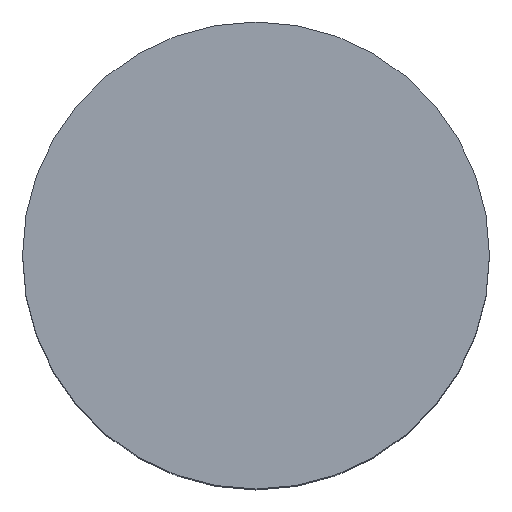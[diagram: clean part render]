
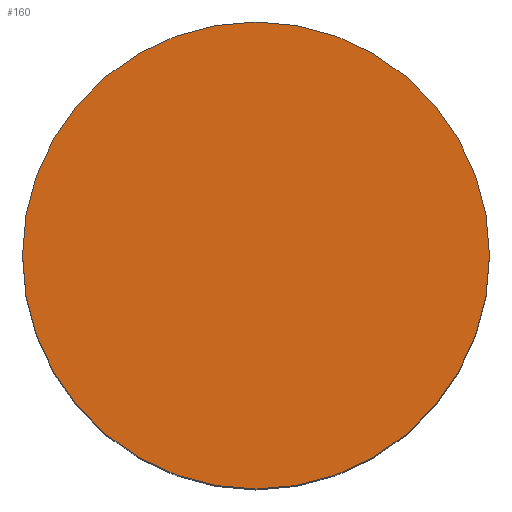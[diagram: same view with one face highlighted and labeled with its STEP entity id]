
A CAD part, top view. The second image highlights one B-rep face of the part: STEP entity #160.
In plain terms, the highlighted planar face has unit normal (0, 0, 1).
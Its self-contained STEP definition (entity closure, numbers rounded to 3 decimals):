
#24 = VERTEX_POINT('',#25);
#25 = CARTESIAN_POINT('',(386.,-38.5,12.));
#32 = CYLINDRICAL_SURFACE('',#33,10.);
#33 = AXIS2_PLACEMENT_3D('',#34,#35,#36);
#34 = CARTESIAN_POINT('',(376.,-38.5,0.));
#35 = DIRECTION('',(-0.,-0.,-1.));
#36 = DIRECTION('',(1.,0.,0.));
#51 = EDGE_CURVE('',#24,#24,#52,.T.);
#52 = SURFACE_CURVE('',#53,(#58,#65),.PCURVE_S1.);
#53 = CIRCLE('',#54,10.);
#54 = AXIS2_PLACEMENT_3D('',#55,#56,#57);
#55 = CARTESIAN_POINT('',(376.,-38.5,12.));
#56 = DIRECTION('',(0.,0.,1.));
#57 = DIRECTION('',(1.,0.,0.));
#58 = PCURVE('',#32,#59);
#59 = DEFINITIONAL_REPRESENTATION('',(#60),#64);
#60 = LINE('',#61,#62);
#61 = CARTESIAN_POINT('',(-0.,-12.));
#62 = VECTOR('',#63,1.);
#63 = DIRECTION('',(-1.,0.));
#64 = ( GEOMETRIC_REPRESENTATION_CONTEXT(2) 
PARAMETRIC_REPRESENTATION_CONTEXT() REPRESENTATION_CONTEXT('2D SPACE',''
  ) );
#65 = PCURVE('',#66,#71);
#66 = PLANE('',#67);
#67 = AXIS2_PLACEMENT_3D('',#68,#69,#70);
#68 = CARTESIAN_POINT('',(376.,-38.5,12.));
#69 = DIRECTION('',(0.,0.,1.));
#70 = DIRECTION('',(1.,0.,-0.));
#71 = DEFINITIONAL_REPRESENTATION('',(#72),#76);
#72 = CIRCLE('',#73,10.);
#73 = AXIS2_PLACEMENT_2D('',#74,#75);
#74 = CARTESIAN_POINT('',(0.,0.));
#75 = DIRECTION('',(1.,0.));
#76 = ( GEOMETRIC_REPRESENTATION_CONTEXT(2) 
PARAMETRIC_REPRESENTATION_CONTEXT() REPRESENTATION_CONTEXT('2D SPACE',''
  ) );
#160 = ADVANCED_FACE('',(#161),#66,.T.);
#161 = FACE_BOUND('',#162,.T.);
#162 = EDGE_LOOP('',(#163));
#163 = ORIENTED_EDGE('',*,*,#51,.T.);
